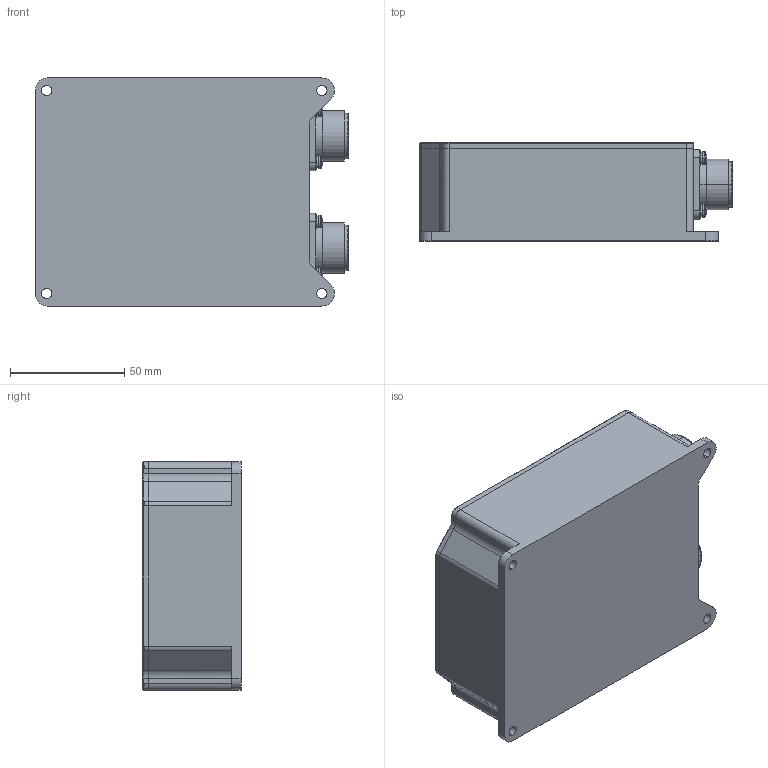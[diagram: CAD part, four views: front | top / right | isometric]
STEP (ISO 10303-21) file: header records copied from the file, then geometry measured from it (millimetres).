
FILE_DESCRIPTION (( 'STEP AP203' ), '1' );
FILE_NAME ('CASE C46.STEP', '2016-08-27T17:29:35', ( 'gregory' ), ( '' ), 'SwSTEP 2.0', 'SolidWorks 2011', '' );
FILE_SCHEMA (( 'CONFIG_CONTROL_DESIGN' ));
Length unit declared in the file: millimetre
Products named in the file (10): CASE C46; CONN MS3102 14 SHELL_FEM - MS3102E14S-6S - 6 PIN; GIL-10700-PR04; lock washer spring regular_ai(Regular LW 0.112); flat washer type a selected narrow_ai(Selected Narrow FW 0.125); GIL-10700-B03; GIL-10700-PR01; CONN MS3102 14 SHELL(MALE - MS3102E14S-4P); pan cross head_ai(CR-PHMS 0.112-40x0.3125x0.3125-N); flat head screw_ai(CR-FHMS 0.112-40x0.3125x0.3125-N)
Assembly tree (38 placements, depth 3):
  CASE C46
    flat washer type a selected narrow_ai(Selected Narrow FW 0.125)  x8
    lock washer spring regular_ai(Regular LW 0.112)  x8
    flat head screw_ai(CR-FHMS 0.112-40x0.3125x0.3125-N)  x9
    CONN MS3102 14 SHELL(MALE - MS3102E14S-4P)
    pan cross head_ai(CR-PHMS 0.112-40x0.3125x0.3125-N)  x8
    CONN MS3102 14 SHELL_FEM - MS3102E14S-6S - 6 PIN
    GIL-10700-B03
      GIL-10700-PR01
    GIL-10700-PR04
Bounding box: 137.07 x 43 x 100 mm (x, y, z)
Volume: 519537.8 mm3; surface area: 82317.6 mm2
Topology: 37 solids, 43 shells, 1169 faces, 2662 edges, 1661 vertices
Faces by surface type: plane 627, cylinder 364, bspline 98, cone 78, torus 2
Entity records: 31184 total; most frequent: CARTESIAN_POINT 11812, ORIENTED_EDGE 3640, DIRECTION 3464, EDGE_CURVE 1820, AXIS2_PLACEMENT_3D 1187, VERTEX_POINT 1175, VECTOR 1090, LINE 1090
